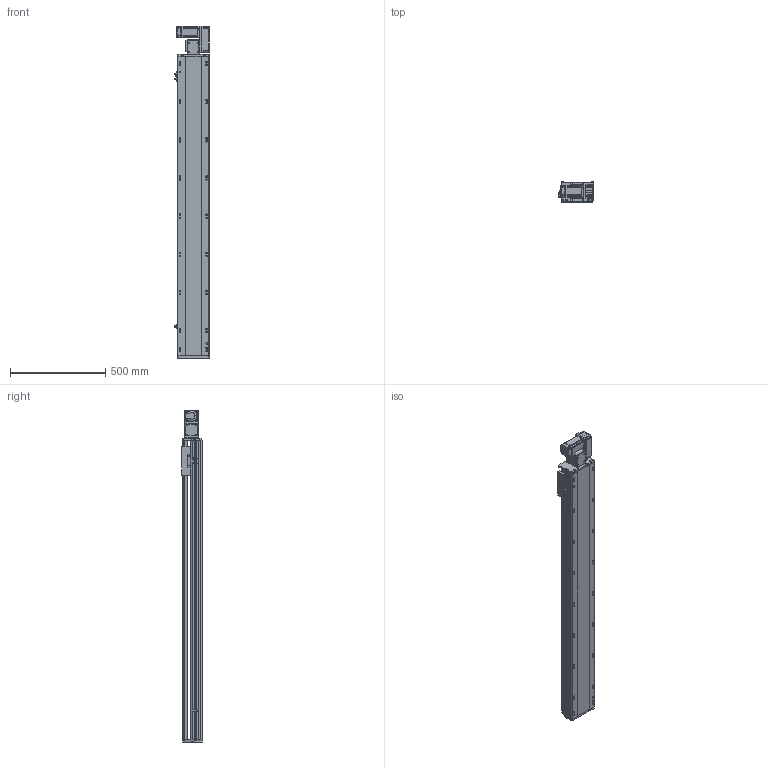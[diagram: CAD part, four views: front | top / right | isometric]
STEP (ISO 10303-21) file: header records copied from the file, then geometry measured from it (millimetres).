
FILE_DESCRIPTION (( 'STEP AP214' ), '1' );
FILE_NAME ('RTB17S-XX-1300-R-M40-C4.STEP', '2025-12-11T07:39:51', ( '' ), ( '' ), 'SwSTEP 2.0', 'SolidWorks 2018', '' );
FILE_SCHEMA (( 'AUTOMOTIVE_DESIGN' ));
Length unit declared in the file: millimetre
Products named in the file (14): OMRON EE-SX672 传感器^RTB17S-XX-XX-R-M40-C4; RTB14-L-017P^RTB17S-R-々湍釱蚾饜-400W_RTB17S-XX-XX-R-M40-C4; RTB17S-L-007奻裔^RTB17S-XX-XX-R-M40-C4; RTB14-L-018P^RTB17S-R-々湍釱蚾饜-400W_RTB17S-XX-XX-R-M40-C4; RTB14-L-008-M20--萇儂啣^RTB17S-R-々湍釱蚾饜-400W_RTB17S-XX-XX-R-M40-C4; RTB17-R-011菁釱^RTB17S-XX-XX-R-M40-C4; 400W侜督萇儂^RTB17S-XX-XX-R-M40-C4; RTH13-BL-012覜茼え俋离^RTB17S-XX-XX-R-M40-C4; RTB17S-L-001耜醱啣^RTB17S-XX-XX-R-M40-C4; RTB14-L-005P--轴承塑胶压盖^RTB17S-R-皮带座装配-400W_RTB17S-XX-XX-R-M40-C4; RTB17S-L-014-T20--々湍釱^RTB17S-R-々湍釱蚾饜-400W_RTB17S-XX-XX-R-M40-C4; RTB17S-XX-1300-R-M40-C4; RTB17S-R-々湍釱蚾饜-400W^RTB17S-XX-XX-R-M40-C4; RTB17S-L-004佪裝蹟譫蟀諉釱^RTB17S-XX-XX-R-M40-C4
Assembly tree (16 placements, depth 3):
  RTB17S-XX-1300-R-M40-C4
    RTB17-R-011菁釱^RTB17S-XX-XX-R-M40-C4
    RTB17S-L-007奻裔^RTB17S-XX-XX-R-M40-C4
    OMRON EE-SX672 传感器^RTB17S-XX-XX-R-M40-C4  x3
    RTB17S-L-001耜醱啣^RTB17S-XX-XX-R-M40-C4
    400W侜督萇儂^RTB17S-XX-XX-R-M40-C4
    RTB17S-L-004佪裝蹟譫蟀諉釱^RTB17S-XX-XX-R-M40-C4
    RTH13-BL-012覜茼え俋离^RTB17S-XX-XX-R-M40-C4
    RTB17S-R-々湍釱蚾饜-400W^RTB17S-XX-XX-R-M40-C4
      RTB17S-L-014-T20--々湍釱^RTB17S-R-々湍釱蚾饜-400W_RTB17S-XX-XX-R-M40-C4
      RTB14-L-005P--轴承塑胶压盖^RTB17S-R-皮带座装配-400W_RTB17S-XX-XX-R-M40-C4
      RTB14-L-008-M20--萇儂啣^RTB17S-R-々湍釱蚾饜-400W_RTB17S-XX-XX-R-M40-C4
      RTB14-L-017P^RTB17S-R-々湍釱蚾饜-400W_RTB17S-XX-XX-R-M40-C4  x2
      RTB14-L-018P^RTB17S-R-々湍釱蚾饜-400W_RTB17S-XX-XX-R-M40-C4
Bounding box: 183.5 x 108 x 1741 mm (x, y, z)
Volume: 14818216.7 mm3; surface area: 1765751.6 mm2
Topology: 15 solids, 15 shells, 2237 faces, 6195 edges, 4041 vertices
Faces by surface type: plane 1072, cylinder 717, bspline 301, cone 139, torus 8
Entity records: 64169 total; most frequent: CARTESIAN_POINT 18000, ORIENTED_EDGE 9234, DIRECTION 8576, EDGE_CURVE 4617, VERTEX_POINT 3029, AXIS2_PLACEMENT_3D 2959, LINE 2658, VECTOR 2658
